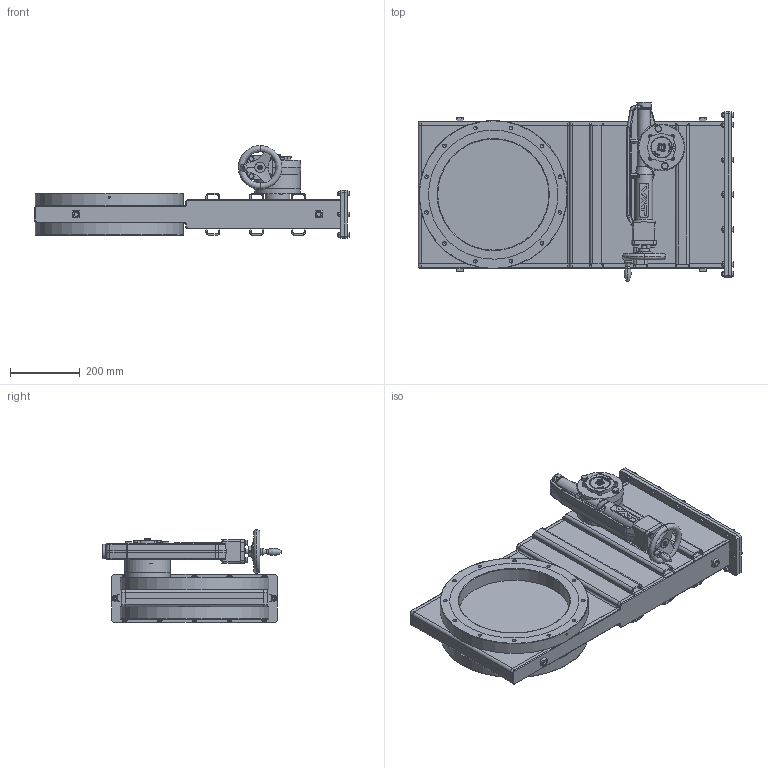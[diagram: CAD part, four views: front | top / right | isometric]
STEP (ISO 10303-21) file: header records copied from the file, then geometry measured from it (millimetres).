
FILE_DESCRIPTION(/* description */ (''),/* implementation_level */ '2;1');
FILE_NAME(/* name */ '1652413795_203.stp',/* time_stamp */ '2015-08-31T10:04:31+02:00',/* author */ (''),/* organization */ (''),/* preprocessor_version */ 'ST-DEVELOPER v15',/* originating_system */ 'SIEMENS PLM Software NX 9.0',/* authorisation */ '');
FILE_SCHEMA (('AP203_CONFIGURATION_CONTROLLED_3D_DESIGN_OF_MECHANICAL_PARTS_AND_ASSEMBLIES_MIM_LF { 1 0 10303 403 2 1 2}'));
Products named in the file (30): 220685; 220664; 220681; 220678.1; 220683_1.1; 220683_2.1; 220678_2.1; 220678_1.1; 326349.1; 369820.1_23421ID; 220703.6; 215241.3; 93516-01.1; 222955.1; 49323-01.1; n-5021-552.1; n-6097-146.1; 49362-01.1; 222684.1; N-6160-411.1; n-6160-412; n-5021-498.1; n-6053-412.2; n-6131-414; 47652-r1.1; 87335-01.1; 234265.2_NX-ARRAGMNTGrundgehäuse "A" für mech. Bearbeitung; 220684.7; 220704.11_MODEL; 449402
Assembly tree (89 placements, depth 5):
  449402
    220704.11_MODEL
      215241.3
      220703.6
      369820.1_23421ID
      220684.7
        220678_1.1
        220678_2.1
        220683_2.1
        220683_1.1
        234265.2_NX-ARRAGMNTGrundgehäuse "A" für mech. Bearbeitung
          220678.1  x4
          220681
          220664
          220685
      326349.1  x4
    87335-01.1
    47652-r1.1
    n-6131-414  x24
    n-6053-412.2  x12
    n-5021-498.1  x16
    n-6160-412  x2
    N-6160-411.1  x4
    222684.1
    49362-01.1
    n-6097-146.1
    n-5021-552.1  x2
    49323-01.1
    222955.1
    93516-01.1
Bounding box: 902.4 x 514.96 x 265.6 mm (x, y, z)
Volume: 14067476.1 mm3; surface area: 2903384.6 mm2
Topology: 123 solids, 123 shells, 1948 faces, 4390 edges, 2741 vertices
Faces by surface type: plane 920, cylinder 489, cone 244, bspline 210, revolution 38, torus 26, extrusion 21
Full cylindrical faces by diameter (mm): 3.3 x4, 4 x5, 5 x4, 5.2 x2, 5.25 x2, 6 x5, 6.66 x16, 6.7 x16, 8 x44, 8.36 x2, 8.4 x26, 8.5 x1, 9 x34, 10 x6, 10.3 x24, 10.8 x4, 12 x4, 12.117 x16, 13.971 x1, 14.009 x1, 15.933 x2, 16 x25, 17 x4, 18 x1, 19 x2, 23 x1, 24.5 x1, 24.989 x2, 25 x1, 30 x1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
Entity records: 49800 total; most frequent: CARTESIAN_POINT 15683, ORIENTED_EDGE 5180, DIRECTION 5014, EDGE_CURVE 2590, AXIS2_PLACEMENT_3D 1952, VERTEX_POINT 1762, EDGE_LOOP 1626, ADVANCED_FACE 1212
